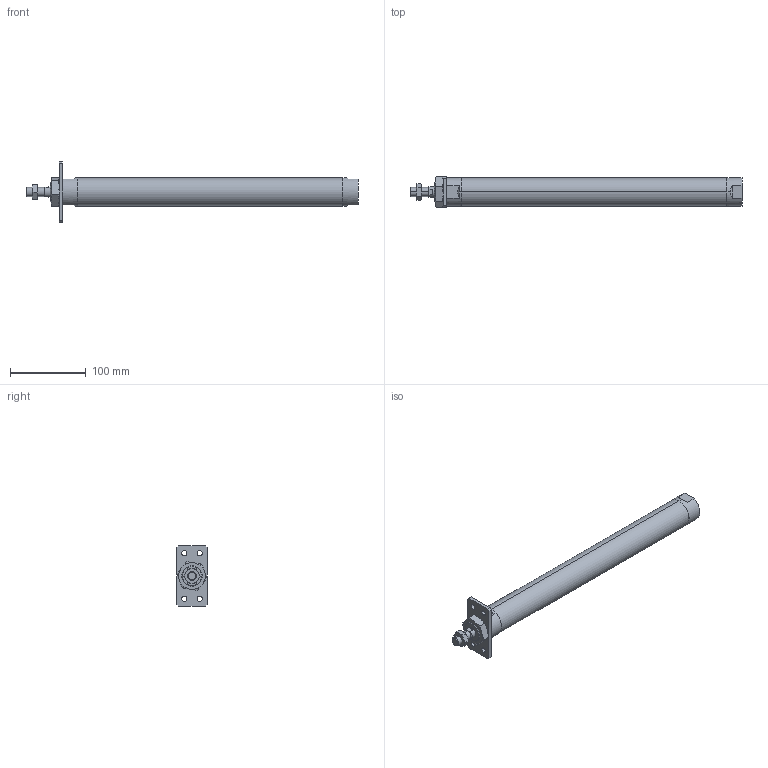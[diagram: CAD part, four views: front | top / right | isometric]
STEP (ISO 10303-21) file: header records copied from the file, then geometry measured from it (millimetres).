
FILE_DESCRIPTION (( 'STEP AP203' ), '1' );
FILE_NAME ('JGND2-32-300-A.STEP', '2016-08-04T03:03:10', ( '' ), ( '' ), 'SwSTEP 2.0', 'SolidWorks 2014', '' );
FILE_SCHEMA (( 'CONFIG_CONTROL_DESIGN' ));
Length unit declared in the file: millimetre
Products named in the file (5): JGND2-32-300-A; J#2-32-A; J#2-32-300(P)
Assembly tree (4 placements, depth 2):
  JGND2-32-300-A
    J#2-32-300(P)
    (unnamed)
    (unnamed)
    J#2-32-A
Bounding box: 437 x 40 x 80 mm (x, y, z)
Volume: 460004.2 mm3; surface area: 62912.4 mm2
Topology: 4 solids, 4 shells, 109 faces, 254 edges, 155 vertices
Faces by surface type: plane 42, cylinder 30, torus 24, cone 13
Entity records: 4084 total; most frequent: CARTESIAN_POINT 1128, DIRECTION 511, ORIENTED_EDGE 500, EDGE_CURVE 250, AXIS2_PLACEMENT_3D 208, VERTEX_POINT 155, EDGE_LOOP 129, FACE_OUTER_BOUND 109
